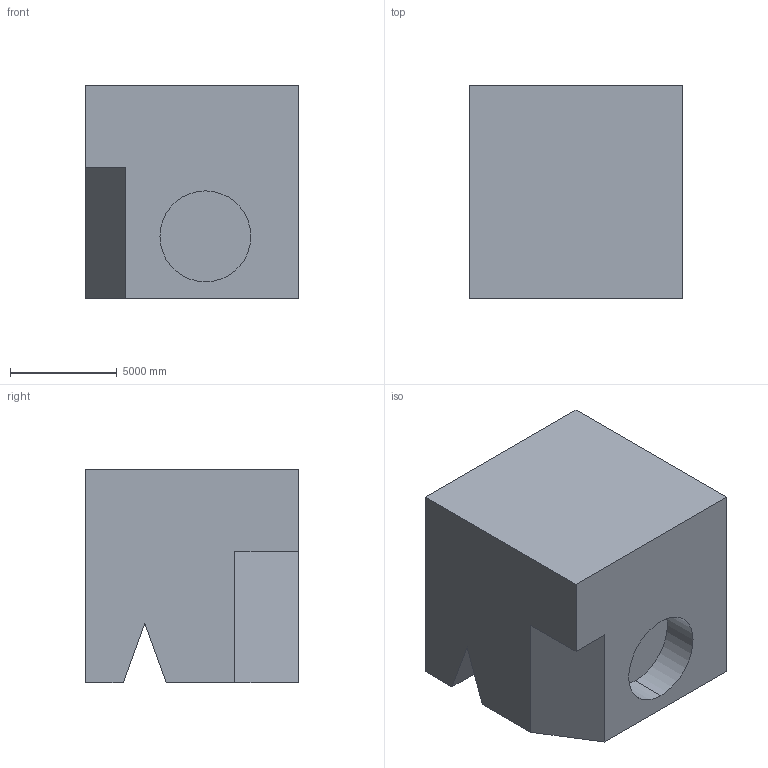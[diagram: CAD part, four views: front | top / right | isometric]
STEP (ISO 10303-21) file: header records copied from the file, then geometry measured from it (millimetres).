
FILE_DESCRIPTION (( 'STEP AP203' ), '1' );
FILE_NAME ('126.STEP', '2022-09-06T13:20:04', ( 'user' ), ( '' ), 'SwSTEP 2.0', 'SolidWorks 2021', '' );
FILE_SCHEMA (( 'CONFIG_CONTROL_DESIGN' ));
Length unit declared in the file: centimetre
Products named in the file (1): 126
Bounding box: 10000 x 10000 x 10000 mm (x, y, z)
Volume: 930223801511.4 mm3; surface area: 648140932.2 mm2
Topology: 1 solids, 1 shells, 14 faces, 33 edges, 22 vertices
Faces by surface type: plane 12, cylinder 2
Entity records: 478 total; most frequent: CARTESIAN_POINT 70, DIRECTION 67, ORIENTED_EDGE 66, EDGE_CURVE 33, VECTOR 29, LINE 29, VERTEX_POINT 22, AXIS2_PLACEMENT_3D 19
